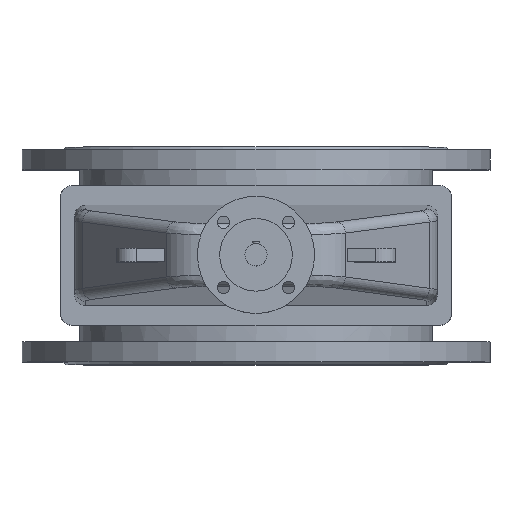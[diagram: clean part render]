
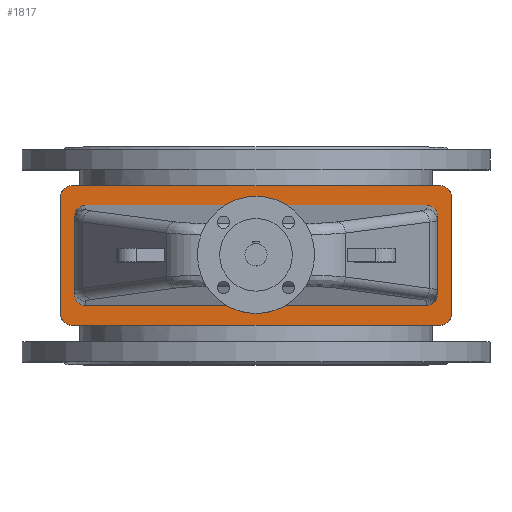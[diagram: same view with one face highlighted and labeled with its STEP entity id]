
A CAD part, top view. The second image highlights one B-rep face of the part: STEP entity #1817.
In plain terms, the highlighted planar face has unit normal (0, 0, 1).
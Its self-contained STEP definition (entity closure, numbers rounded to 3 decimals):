
#1817=ADVANCED_FACE('',(#5653,#5655),#5657,.T.);
#5653=FACE_BOUND('',#5654,.T.);
#5654=EDGE_LOOP('',(#7601,#7602,#7603,#7604,#7605,#7606,#7607,#7608));
#5655=FACE_BOUND('',#5656,.T.);
#5656=EDGE_LOOP('',(#7609,#7610,#7611,#7612,#7613,#7614,#7615,#7616));
#5657=PLANE('',#5658);
#5658=AXIS2_PLACEMENT_3D('',#5659,#5660,#5661);
#5659=CARTESIAN_POINT('',(0.,0.,666.));
#5660=DIRECTION('',(0.,-0.,1.));
#5661=DIRECTION('',(0.,1.,0.));
#7601=ORIENTED_EDGE('',*,*,#8317,.F.);
#7602=ORIENTED_EDGE('',*,*,#8330,.T.);
#7603=ORIENTED_EDGE('',*,*,#8329,.F.);
#7604=ORIENTED_EDGE('',*,*,#8327,.T.);
#7605=ORIENTED_EDGE('',*,*,#8325,.F.);
#7606=ORIENTED_EDGE('',*,*,#8323,.T.);
#7607=ORIENTED_EDGE('',*,*,#8321,.F.);
#7608=ORIENTED_EDGE('',*,*,#8318,.T.);
#7609=ORIENTED_EDGE('',*,*,#8331,.F.);
#7610=ORIENTED_EDGE('',*,*,#8332,.F.);
#7611=ORIENTED_EDGE('',*,*,#8333,.F.);
#7612=ORIENTED_EDGE('',*,*,#8334,.F.);
#7613=ORIENTED_EDGE('',*,*,#8335,.F.);
#7614=ORIENTED_EDGE('',*,*,#8336,.F.);
#7615=ORIENTED_EDGE('',*,*,#8337,.F.);
#7616=ORIENTED_EDGE('',*,*,#8338,.F.);
#8317=EDGE_CURVE('',#9217,#9215,#9219,.F.);
#8318=EDGE_CURVE('',#9220,#9215,#9221,.T.);
#8321=EDGE_CURVE('',#9220,#9223,#9225,.F.);
#8323=EDGE_CURVE('',#9226,#9223,#9228,.T.);
#8325=EDGE_CURVE('',#9226,#9229,#9231,.F.);
#8327=EDGE_CURVE('',#9232,#9229,#9234,.T.);
#8329=EDGE_CURVE('',#9232,#9235,#9237,.F.);
#8330=EDGE_CURVE('',#9217,#9235,#9238,.T.);
#8331=EDGE_CURVE('',#9239,#9240,#9241,.F.);
#8332=EDGE_CURVE('',#9242,#9239,#9243,.T.);
#8333=EDGE_CURVE('',#9244,#9242,#9245,.T.);
#8334=EDGE_CURVE('',#9246,#9244,#9247,.T.);
#8335=EDGE_CURVE('',#9248,#9246,#9249,.F.);
#8336=EDGE_CURVE('',#9250,#9248,#9251,.T.);
#8337=EDGE_CURVE('',#9252,#9250,#9253,.T.);
#8338=EDGE_CURVE('',#9240,#9252,#9254,.T.);
#9215=VERTEX_POINT('',#11785);
#9217=VERTEX_POINT('',#11789);
#9219=CIRCLE('',#11793,20.);
#9220=VERTEX_POINT('',#11797);
#9221=LINE('',#11798,#11799);
#9223=VERTEX_POINT('',#11804);
#9225=CIRCLE('',#11808,20.);
#9226=VERTEX_POINT('',#11812);
#9228=LINE('',#11816,#11817);
#9229=VERTEX_POINT('',#11819);
#9231=CIRCLE('',#11823,20.);
#9232=VERTEX_POINT('',#11827);
#9234=LINE('',#11831,#11832);
#9235=VERTEX_POINT('',#11834);
#9237=CIRCLE('',#11838,20.);
#9238=LINE('',#11842,#11843);
#9239=VERTEX_POINT('',#11845);
#9240=VERTEX_POINT('',#11846);
#9241=(BOUNDED_CURVE()B_SPLINE_CURVE(3,
(#11847,#11848,#11849,#11850),
.UNSPECIFIED.,.F.,.F.)B_SPLINE_CURVE_WITH_KNOTS((4,4),
(0.,1.),
.UNSPECIFIED.)CURVE()GEOMETRIC_REPRESENTATION_ITEM()RATIONAL_B_SPLINE_CURVE((1.,
0.805,0.805,1.))REPRESENTATION_ITEM(''));
#9242=VERTEX_POINT('',#11851);
#9243=LINE('',#11852,#11853);
#9244=VERTEX_POINT('',#11855);
#9245=(BOUNDED_CURVE()B_SPLINE_CURVE(3,
(#11856,#11857,#11858,#11859),
.UNSPECIFIED.,.F.,.F.)B_SPLINE_CURVE_WITH_KNOTS((4,4),
(0.,1.),
.UNSPECIFIED.)CURVE()GEOMETRIC_REPRESENTATION_ITEM()RATIONAL_B_SPLINE_CURVE((1.,
0.805,0.805,1.))REPRESENTATION_ITEM(''));
#9246=VERTEX_POINT('',#11860);
#9247=LINE('',#11861,#11862);
#9248=VERTEX_POINT('',#11864);
#9249=(BOUNDED_CURVE()B_SPLINE_CURVE(3,
(#11865,#11866,#11867,#11868),
.UNSPECIFIED.,.F.,.F.)B_SPLINE_CURVE_WITH_KNOTS((4,4),
(0.,1.),
.UNSPECIFIED.)CURVE()GEOMETRIC_REPRESENTATION_ITEM()RATIONAL_B_SPLINE_CURVE((1.,
0.805,0.805,1.))REPRESENTATION_ITEM(''));
#9250=VERTEX_POINT('',#11869);
#9251=LINE('',#11870,#11871);
#9252=VERTEX_POINT('',#11873);
#9253=(BOUNDED_CURVE()B_SPLINE_CURVE(3,
(#11874,#11875,#11876,#11877),
.UNSPECIFIED.,.F.,.F.)B_SPLINE_CURVE_WITH_KNOTS((4,4),
(0.,1.),
.UNSPECIFIED.)CURVE()GEOMETRIC_REPRESENTATION_ITEM()RATIONAL_B_SPLINE_CURVE((1.,
0.805,0.805,1.))REPRESENTATION_ITEM(''));
#9254=LINE('',#11878,#11879);
#11785=CARTESIAN_POINT('',(-350.,-105.,666.));
#11789=CARTESIAN_POINT('',(-330.,-125.,666.));
#11793=AXIS2_PLACEMENT_3D('',#11794,#11795,#11796);
#11794=CARTESIAN_POINT('',(-330.,-105.,666.));
#11795=DIRECTION('',(0.,-0.,1.));
#11796=DIRECTION('',(-1.,0.,0.));
#11797=CARTESIAN_POINT('',(-350.,105.,666.));
#11798=CARTESIAN_POINT('',(-350.,105.,666.));
#11799=VECTOR('',#11800,1.);
#11800=DIRECTION('',(0.,-1.,0.));
#11804=CARTESIAN_POINT('',(-330.,125.,666.));
#11808=AXIS2_PLACEMENT_3D('',#11809,#11810,#11811);
#11809=CARTESIAN_POINT('',(-330.,105.,666.));
#11810=DIRECTION('',(0.,-0.,1.));
#11811=DIRECTION('',(0.,1.,0.));
#11812=CARTESIAN_POINT('',(330.,125.,666.));
#11816=CARTESIAN_POINT('',(330.,125.,666.));
#11817=VECTOR('',#11818,1.);
#11818=DIRECTION('',(-1.,0.,0.));
#11819=CARTESIAN_POINT('',(350.,105.,666.));
#11823=AXIS2_PLACEMENT_3D('',#11824,#11825,#11826);
#11824=CARTESIAN_POINT('',(330.,105.,666.));
#11825=DIRECTION('',(0.,-0.,1.));
#11826=DIRECTION('',(1.,0.,0.));
#11827=CARTESIAN_POINT('',(350.,-105.,666.));
#11831=CARTESIAN_POINT('',(350.,-105.,666.));
#11832=VECTOR('',#11833,1.);
#11833=DIRECTION('',(0.,1.,0.));
#11834=CARTESIAN_POINT('',(330.,-125.,666.));
#11838=AXIS2_PLACEMENT_3D('',#11839,#11840,#11841);
#11839=CARTESIAN_POINT('',(330.,-105.,666.));
#11840=DIRECTION('',(0.,-0.,1.));
#11841=DIRECTION('',(0.,-1.,0.));
#11842=CARTESIAN_POINT('',(-330.,-125.,666.));
#11843=VECTOR('',#11844,1.);
#11844=DIRECTION('',(1.,0.,0.));
#11845=CARTESIAN_POINT('',(305.,-90.,666.));
#11846=CARTESIAN_POINT('',(325.,-69.924,666.));
#11847=CARTESIAN_POINT('',(325.,-69.924,666.));
#11848=CARTESIAN_POINT('',(325.,-81.684,666.));
#11849=CARTESIAN_POINT('',(316.716,-90.,666.));
#11850=CARTESIAN_POINT('',(305.,-90.,666.));
#11851=CARTESIAN_POINT('',(-305.,-90.,666.));
#11852=CARTESIAN_POINT('',(-305.,-90.,666.));
#11853=VECTOR('',#11854,1.);
#11854=DIRECTION('',(1.,0.,0.));
#11855=CARTESIAN_POINT('',(-325.,-69.924,666.));
#11856=CARTESIAN_POINT('',(-325.,-69.924,666.));
#11857=CARTESIAN_POINT('',(-325.,-81.684,666.));
#11858=CARTESIAN_POINT('',(-316.716,-90.,666.));
#11859=CARTESIAN_POINT('',(-305.,-90.,666.));
#11860=CARTESIAN_POINT('',(-325.,69.924,666.));
#11861=CARTESIAN_POINT('',(-325.,69.924,666.));
#11862=VECTOR('',#11863,1.);
#11863=DIRECTION('',(0.,-1.,0.));
#11864=CARTESIAN_POINT('',(-305.,90.,666.));
#11865=CARTESIAN_POINT('',(-325.,69.924,666.));
#11866=CARTESIAN_POINT('',(-325.,81.684,666.));
#11867=CARTESIAN_POINT('',(-316.716,90.,666.));
#11868=CARTESIAN_POINT('',(-305.,90.,666.));
#11869=CARTESIAN_POINT('',(305.,90.,666.));
#11870=CARTESIAN_POINT('',(305.,90.,666.));
#11871=VECTOR('',#11872,1.);
#11872=DIRECTION('',(-1.,0.,0.));
#11873=CARTESIAN_POINT('',(325.,69.924,666.));
#11874=CARTESIAN_POINT('',(325.,69.924,666.));
#11875=CARTESIAN_POINT('',(325.,81.684,666.));
#11876=CARTESIAN_POINT('',(316.716,90.,666.));
#11877=CARTESIAN_POINT('',(305.,90.,666.));
#11878=CARTESIAN_POINT('',(325.,-69.924,666.));
#11879=VECTOR('',#11880,1.);
#11880=DIRECTION('',(0.,1.,0.));
